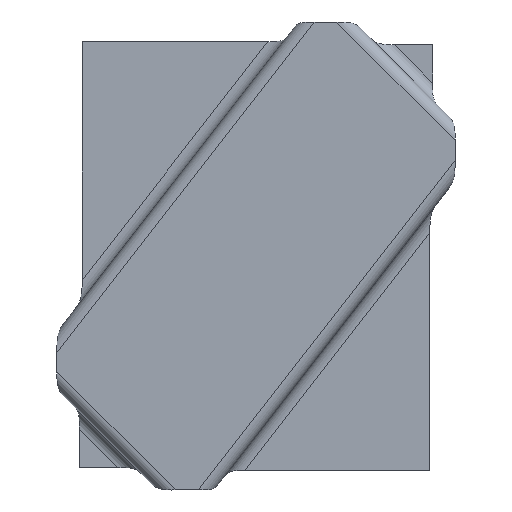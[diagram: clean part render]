
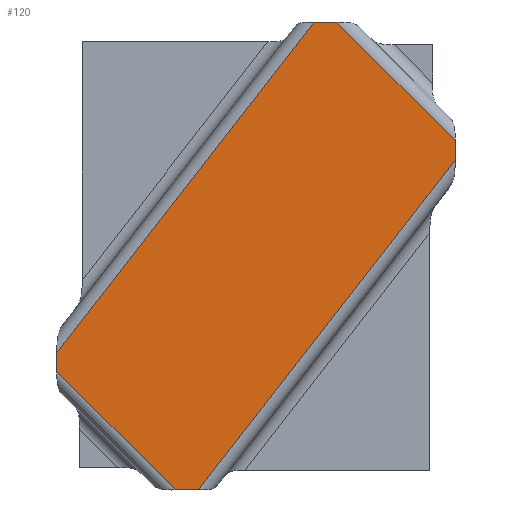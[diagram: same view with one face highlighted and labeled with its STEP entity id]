
A CAD part, top view. The second image highlights one B-rep face of the part: STEP entity #120.
In plain terms, the highlighted planar face has unit normal (0, 0, -1).
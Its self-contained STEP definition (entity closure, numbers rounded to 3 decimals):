
#53=CARTESIAN_POINT('Axis2P3D Location',(-51.131,39.791,65.289)) ;
#59=CARTESIAN_POINT('Control Point',(-51.131,79.211,65.289)) ;
#60=CARTESIAN_POINT('Control Point',(22.471,173.791,65.289)) ;
#61=CARTESIAN_POINT('Vertex',(-51.131,79.211,65.289)) ;
#63=CARTESIAN_POINT('Vertex',(22.471,173.791,65.289)) ;
#66=CARTESIAN_POINT('Line Origine',(5.869,173.791,65.289)) ;
#70=CARTESIAN_POINT('Vertex',(29.043,173.791,65.289)) ;
#74=CARTESIAN_POINT('Control Point',(29.043,173.791,65.289)) ;
#75=CARTESIAN_POINT('Control Point',(62.869,139.965,65.289)) ;
#76=CARTESIAN_POINT('Vertex',(62.869,139.965,65.289)) ;
#79=CARTESIAN_POINT('Line Origine',(62.869,106.791,65.289)) ;
#83=CARTESIAN_POINT('Vertex',(62.869,134.194,65.289)) ;
#87=CARTESIAN_POINT('Control Point',(62.869,134.194,65.289)) ;
#88=CARTESIAN_POINT('Control Point',(-10.596,39.791,65.289)) ;
#89=CARTESIAN_POINT('Vertex',(-10.596,39.791,65.289)) ;
#92=CARTESIAN_POINT('Line Origine',(5.869,39.791,65.289)) ;
#96=CARTESIAN_POINT('Vertex',(-17.305,39.791,65.289)) ;
#100=CARTESIAN_POINT('Control Point',(-51.131,73.616,65.289)) ;
#101=CARTESIAN_POINT('Control Point',(-17.305,39.791,65.289)) ;
#102=CARTESIAN_POINT('Vertex',(-51.131,73.616,65.289)) ;
#105=CARTESIAN_POINT('Line Origine',(-51.131,106.791,65.289)) ;
#54=DIRECTION('Axis2P3D Direction',(0.,0.,1.)) ;
#55=DIRECTION('Axis2P3D XDirection',(1.,0.,0.)) ;
#67=DIRECTION('Vector Direction',(1.,0.,0.)) ;
#80=DIRECTION('Vector Direction',(0.,1.,0.)) ;
#93=DIRECTION('Vector Direction',(1.,0.,0.)) ;
#106=DIRECTION('Vector Direction',(0.,1.,0.)) ;
#56=AXIS2_PLACEMENT_3D('Plane Axis2P3D',#53,#54,#55) ;
#111=ORIENTED_EDGE('',*,*,#65,.T.) ;
#112=ORIENTED_EDGE('',*,*,#72,.T.) ;
#113=ORIENTED_EDGE('',*,*,#78,.T.) ;
#114=ORIENTED_EDGE('',*,*,#85,.T.) ;
#115=ORIENTED_EDGE('',*,*,#91,.T.) ;
#116=ORIENTED_EDGE('',*,*,#98,.T.) ;
#117=ORIENTED_EDGE('',*,*,#104,.F.) ;
#118=ORIENTED_EDGE('',*,*,#109,.T.) ;
#68=VECTOR('Line Direction',#67,1.) ;
#81=VECTOR('Line Direction',#80,1.) ;
#94=VECTOR('Line Direction',#93,1.) ;
#107=VECTOR('Line Direction',#106,1.) ;
#120=ADVANCED_FACE('Offset.1',(#119),#57,.F.) ;
#58=B_SPLINE_CURVE_WITH_KNOTS('',1,(#59,#60),.UNSPECIFIED.,.F.,.U.,(2,2),(-59.922,59.922),.UNSPECIFIED.) ;
#73=B_SPLINE_CURVE_WITH_KNOTS('',1,(#74,#75),.UNSPECIFIED.,.F.,.U.,(2,2),(-23.919,23.919),.UNSPECIFIED.) ;
#86=B_SPLINE_CURVE_WITH_KNOTS('',1,(#87,#88),.UNSPECIFIED.,.F.,.U.,(2,2),(-59.81,59.81),.UNSPECIFIED.) ;
#99=B_SPLINE_CURVE_WITH_KNOTS('',1,(#100,#101),.UNSPECIFIED.,.F.,.U.,(2,2),(-23.919,23.919),.UNSPECIFIED.) ;
#65=EDGE_CURVE('',#62,#64,#58,.T.) ;
#72=EDGE_CURVE('',#64,#71,#69,.T.) ;
#78=EDGE_CURVE('',#71,#77,#73,.T.) ;
#85=EDGE_CURVE('',#77,#84,#82,.F.) ;
#91=EDGE_CURVE('',#84,#90,#86,.T.) ;
#98=EDGE_CURVE('',#90,#97,#95,.F.) ;
#104=EDGE_CURVE('',#103,#97,#99,.T.) ;
#109=EDGE_CURVE('',#103,#62,#108,.T.) ;
#110=EDGE_LOOP('',(#111,#112,#113,#114,#115,#116,#117,#118)) ;
#119=FACE_OUTER_BOUND('',#110,.T.) ;
#69=LINE('Line',#66,#68) ;
#82=LINE('Line',#79,#81) ;
#95=LINE('Line',#92,#94) ;
#108=LINE('Line',#105,#107) ;
#57=PLANE('',#56) ;
#62=VERTEX_POINT('',#61) ;
#64=VERTEX_POINT('',#63) ;
#71=VERTEX_POINT('',#70) ;
#77=VERTEX_POINT('',#76) ;
#84=VERTEX_POINT('',#83) ;
#90=VERTEX_POINT('',#89) ;
#97=VERTEX_POINT('',#96) ;
#103=VERTEX_POINT('',#102) ;
